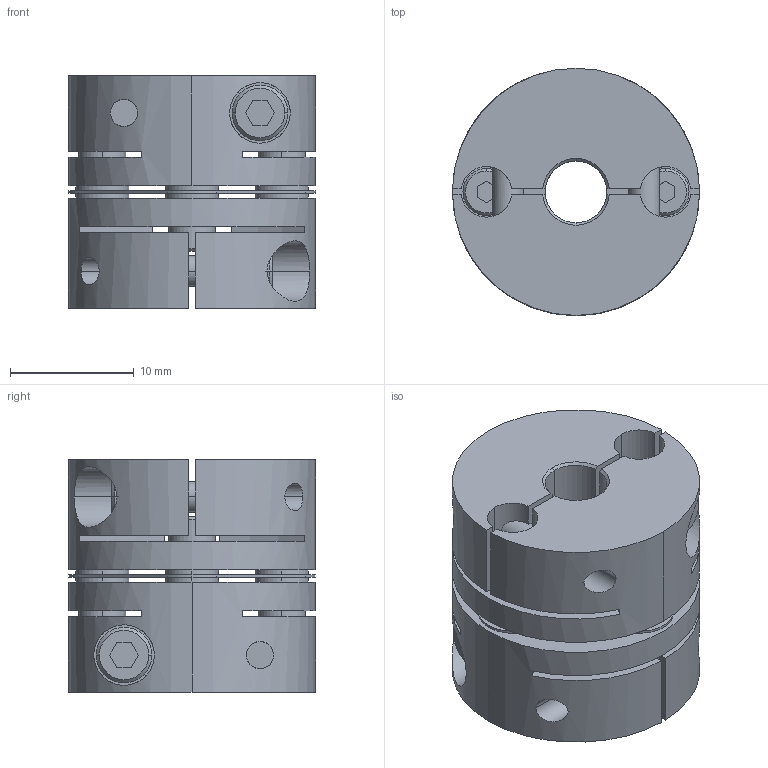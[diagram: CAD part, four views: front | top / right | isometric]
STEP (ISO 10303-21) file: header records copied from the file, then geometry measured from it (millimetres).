
FILE_DESCRIPTION((''),'2;1');
FILE_NAME('LAS-20C-5×7.stp','2011-08-10T08:55:17',(''),(''),'AutoCAD STEP 2000i','AutoCAD 2000i',', , ');
FILE_SCHEMA(('CONFIG_CONTROL_DESIGN'));
Length unit declared in the file: millimetre
Products named in the file (5): LAS-20C-4×4; 忣兜1; LA-2002-D04-1; LA-2002-D04; LAS20-ITA
Assembly tree (4 placements, depth 2):
  LAS-20C-4×4
    忣兜1
    LA-2002-D04-1
    LA-2002-D04
    LAS20-ITA
Bounding box: 20 x 20 x 18.8 mm (x, y, z)
Volume: 4497.6 mm3; surface area: 4529 mm2
Topology: 1 solids, 1 shells, 236 faces, 624 edges, 408 vertices
Faces by surface type: plane 112, cylinder 96, cone 28
Entity records: 8203 total; most frequent: CARTESIAN_POINT 2009, DIRECTION 1302, ORIENTED_EDGE 1248, EDGE_CURVE 624, AXIS2_PLACEMENT_3D 477, VERTEX_POINT 408, VECTOR 348, LINE 348
